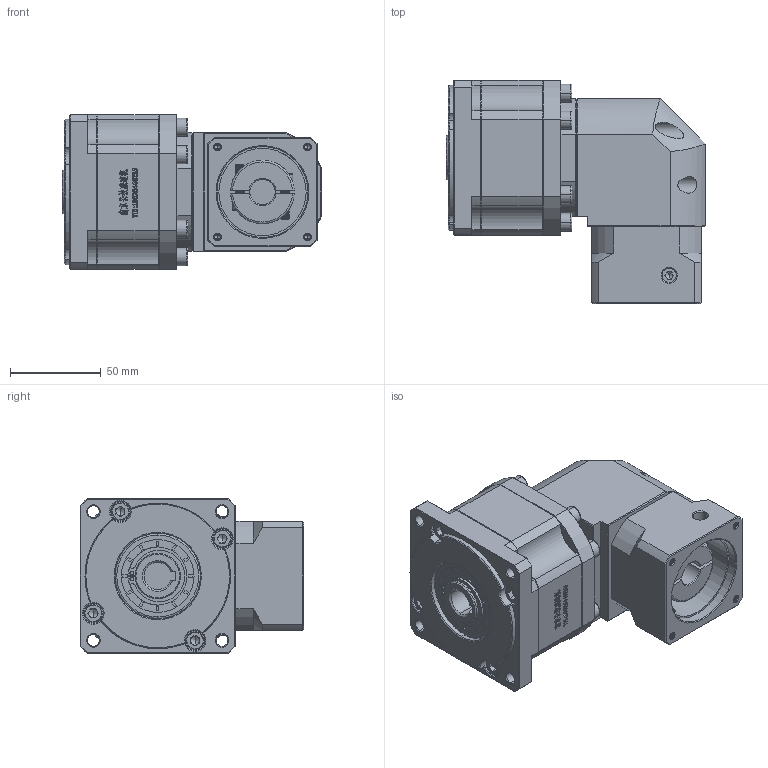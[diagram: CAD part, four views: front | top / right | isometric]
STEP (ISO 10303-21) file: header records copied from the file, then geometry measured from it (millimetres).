
FILE_DESCRIPTION (( 'STEP AP214' ), '1' );
FILE_NAME ('ZBR90-K15-L2-14-50-70-M4.step', '2022-05-07T15:24:01', ( '' ), ( 'Microsoft' ), 'SwSTEP 2.0', 'SolidWorks 2016', '' );
FILE_SCHEMA (( 'AUTOMOTIVE_DESIGN' ));
Length unit declared in the file: millimetre
Products named in the file (1): ZBR90-K15-L2-14-50-70-M4
Bounding box: 142.5 x 122.7 x 85 mm (x, y, z)
Volume: 782227.3 mm3; surface area: 97708.5 mm2
Topology: 5 solids, 5 shells, 2982 faces, 7989 edges, 5150 vertices
Faces by surface type: plane 1591, bspline 610, cylinder 410, cone 363, torus 8
Entity records: 155066 total; most frequent: CARTESIAN_POINT 52214, ORIENTED_EDGE 15890, DIRECTION 12242, EDGE_CURVE 7945, VECTOR 5286, LINE 5286, VERTEX_POINT 5150, AXIS2_PLACEMENT_3D 3478
